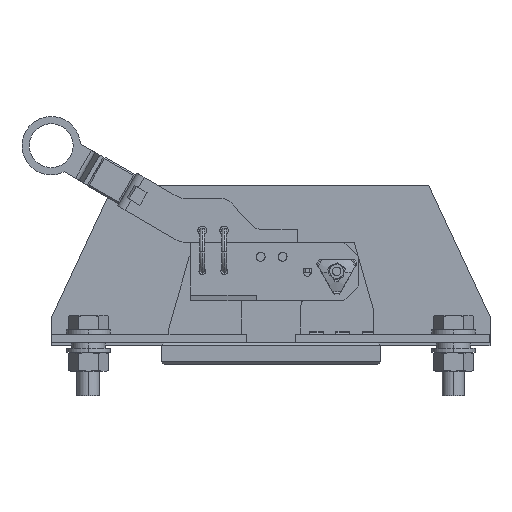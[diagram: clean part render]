
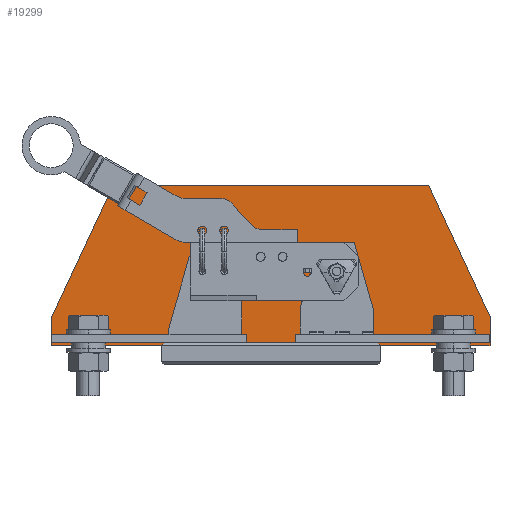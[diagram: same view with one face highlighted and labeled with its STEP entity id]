
A CAD part, left-side view. The second image highlights one B-rep face of the part: STEP entity #19299.
In plain terms, the highlighted planar face has unit normal (-1, 0, 0).
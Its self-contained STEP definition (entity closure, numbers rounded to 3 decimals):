
#667 = ORIENTED_EDGE ( 'NONE', *, *, #46821, .T. ) ;
#883 = CIRCLE ( 'NONE', #24839, 2.2 ) ;
#1152 = CARTESIAN_POINT ( 'NONE',  ( -72.292, 99.787, 115.5 ) ) ;
#2796 = LINE ( 'NONE', #18545, #61896 ) ;
#3991 = DIRECTION ( 'NONE',  ( 0., 1., 0. ) ) ;
#4639 = CARTESIAN_POINT ( 'NONE',  ( -72.292, -158.213, 5.5 ) ) ;
#4951 = DIRECTION ( 'NONE',  ( 0., 0., -1. ) ) ;
#5283 = CARTESIAN_POINT ( 'NONE',  ( -72.292, -37.013, 26.5 ) ) ;
#5564 = CARTESIAN_POINT ( 'NONE',  ( -72.292, -41.413, 24.5 ) ) ;
#5668 = CARTESIAN_POINT ( 'NONE',  ( -72.292, -158.213, 25.5 ) ) ;
#6120 = VERTEX_POINT ( 'NONE', #15989 ) ;
#7255 = DIRECTION ( 'NONE',  ( 0., -1., 0. ) ) ;
#9452 = VECTOR ( 'NONE', #12694, 1000. ) ;
#9814 = EDGE_CURVE ( 'NONE', #61423, #61314, #15229, .T. ) ;
#10171 = VERTEX_POINT ( 'NONE', #5283 ) ;
#11041 = CARTESIAN_POINT ( 'NONE',  ( -72.292, -41.413, 26.5 ) ) ;
#11262 = EDGE_CURVE ( 'NONE', #10171, #53339, #45968, .T. ) ;
#11520 = VECTOR ( 'NONE', #53449, 1000. ) ;
#11706 = ORIENTED_EDGE ( 'NONE', *, *, #79990, .T. ) ;
#11876 = VECTOR ( 'NONE', #18742, 1000. ) ;
#12694 = DIRECTION ( 'NONE',  ( 0., -1., 0. ) ) ;
#15229 = LINE ( 'NONE', #36497, #88988 ) ;
#15475 = EDGE_CURVE ( 'NONE', #6120, #90096, #80034, .T. ) ;
#15645 = DIRECTION ( 'NONE',  ( 0., 0., 1. ) ) ;
#15989 = CARTESIAN_POINT ( 'NONE',  ( -72.292, 141.787, 25.5 ) ) ;
#16258 = VERTEX_POINT ( 'NONE', #43400 ) ;
#18493 = CARTESIAN_POINT ( 'NONE',  ( -72.292, -41.413, 26.5 ) ) ;
#18545 = CARTESIAN_POINT ( 'NONE',  ( -72.292, 20.587, 26.5 ) ) ;
#18742 = DIRECTION ( 'NONE',  ( 0., -0.423, 0.906 ) ) ;
#19299 = ADVANCED_FACE ( 'NONE', ( #35807, #62573, #53625 ), #55918, .T. ) ;
#20911 = CARTESIAN_POINT ( 'NONE',  ( -72.292, 24.987, 26.5 ) ) ;
#21221 = DIRECTION ( 'NONE',  ( 1., 0., 0. ) ) ;
#23307 = EDGE_CURVE ( 'NONE', #90096, #45881, #64101, .T. ) ;
#23668 = CARTESIAN_POINT ( 'NONE',  ( -72.292, -158.213, 5.5 ) ) ;
#24839 = AXIS2_PLACEMENT_3D ( 'NONE', #35546, #21221, #49289 ) ;
#25103 = VECTOR ( 'NONE', #79893, 1000. ) ;
#25823 = ORIENTED_EDGE ( 'NONE', *, *, #92326, .T. ) ;
#26170 = EDGE_CURVE ( 'NONE', #45881, #67321, #90101, .T. ) ;
#26686 = VERTEX_POINT ( 'NONE', #89574 ) ;
#27112 = DIRECTION ( 'NONE',  ( 0., -0.423, -0.906 ) ) ;
#27481 = DIRECTION ( 'NONE',  ( 0., 1., 0. ) ) ;
#27926 = DIRECTION ( 'NONE',  ( 0., 0., 1. ) ) ;
#28380 = VERTEX_POINT ( 'NONE', #53958 ) ;
#29631 = DIRECTION ( 'NONE',  ( 1., 0., 0. ) ) ;
#30408 = EDGE_LOOP ( 'NONE', ( #82933, #45120, #57291, #667 ) ) ;
#33183 = AXIS2_PLACEMENT_3D ( 'NONE', #82048, #74481, #3991 ) ;
#34066 = LINE ( 'NONE', #23668, #25103 ) ;
#34417 = DIRECTION ( 'NONE',  ( 0., 0., 1. ) ) ;
#34990 = DIRECTION ( 'NONE',  ( -1., 0., 0. ) ) ;
#35516 = EDGE_CURVE ( 'NONE', #26686, #6120, #84689, .T. ) ;
#35546 = CARTESIAN_POINT ( 'NONE',  ( -72.292, 22.787, 26.5 ) ) ;
#35807 = FACE_BOUND ( 'NONE', #65641, .T. ) ;
#36497 = CARTESIAN_POINT ( 'NONE',  ( -72.292, 24.987, 26.5 ) ) ;
#41155 = AXIS2_PLACEMENT_3D ( 'NONE', #49960, #34990, #7255 ) ;
#42395 = EDGE_CURVE ( 'NONE', #61314, #91468, #883, .T. ) ;
#42668 = EDGE_CURVE ( 'NONE', #67321, #49198, #48827, .T. ) ;
#43400 = CARTESIAN_POINT ( 'NONE',  ( -72.292, -37.013, 24.5 ) ) ;
#45050 = ORIENTED_EDGE ( 'NONE', *, *, #35516, .F. ) ;
#45120 = ORIENTED_EDGE ( 'NONE', *, *, #42395, .T. ) ;
#45881 = VERTEX_POINT ( 'NONE', #81814 ) ;
#45968 = CIRCLE ( 'NONE', #88547, 2.2 ) ;
#46102 = CIRCLE ( 'NONE', #79797, 2.2 ) ;
#46821 = EDGE_CURVE ( 'NONE', #28380, #61423, #73176, .T. ) ;
#48107 = EDGE_LOOP ( 'NONE', ( #55274, #76910, #59052, #87897, #45050, #67236 ) ) ;
#48384 = CARTESIAN_POINT ( 'NONE',  ( -72.292, -39.213, 24.5 ) ) ;
#48827 = LINE ( 'NONE', #4639, #82400 ) ;
#49132 = CARTESIAN_POINT ( 'NONE',  ( -72.292, 141.787, 5.5 ) ) ;
#49198 = VERTEX_POINT ( 'NONE', #55259 ) ;
#49289 = DIRECTION ( 'NONE',  ( 0., 1., 0. ) ) ;
#49960 = CARTESIAN_POINT ( 'NONE',  ( -72.292, -158.213, 115.5 ) ) ;
#52025 = VECTOR ( 'NONE', #27112, 1000. ) ;
#53339 = VERTEX_POINT ( 'NONE', #18493 ) ;
#53449 = DIRECTION ( 'NONE',  ( 0., 0., -1. ) ) ;
#53625 = FACE_BOUND ( 'NONE', #30408, .T. ) ;
#53958 = CARTESIAN_POINT ( 'NONE',  ( -72.292, 20.587, 24.5 ) ) ;
#55259 = CARTESIAN_POINT ( 'NONE',  ( -72.292, -158.213, 5.5 ) ) ;
#55274 = ORIENTED_EDGE ( 'NONE', *, *, #42668, .F. ) ;
#55280 = EDGE_CURVE ( 'NONE', #49198, #26686, #34066, .T. ) ;
#55918 = PLANE ( 'NONE',  #41155 ) ;
#57240 = LINE ( 'NONE', #11041, #11520 ) ;
#57291 = ORIENTED_EDGE ( 'NONE', *, *, #79978, .T. ) ;
#59052 = ORIENTED_EDGE ( 'NONE', *, *, #23307, .F. ) ;
#61314 = VERTEX_POINT ( 'NONE', #20911 ) ;
#61423 = VERTEX_POINT ( 'NONE', #66522 ) ;
#61896 = VECTOR ( 'NONE', #62479, 1000. ) ;
#62479 = DIRECTION ( 'NONE',  ( 0., 0., -1. ) ) ;
#62573 = FACE_OUTER_BOUND ( 'NONE', #48107, .T. ) ;
#62664 = CARTESIAN_POINT ( 'NONE',  ( -72.292, 141.787, 25.5 ) ) ;
#64101 = LINE ( 'NONE', #69421, #9452 ) ;
#65641 = EDGE_LOOP ( 'NONE', ( #11706, #86792, #25823, #92628 ) ) ;
#66366 = LINE ( 'NONE', #84431, #92189 ) ;
#66522 = CARTESIAN_POINT ( 'NONE',  ( -72.292, 24.987, 24.5 ) ) ;
#67236 = ORIENTED_EDGE ( 'NONE', *, *, #55280, .F. ) ;
#67321 = VERTEX_POINT ( 'NONE', #75602 ) ;
#67820 = VECTOR ( 'NONE', #27926, 1000. ) ;
#68206 = CARTESIAN_POINT ( 'NONE',  ( -72.292, 20.587, 26.5 ) ) ;
#69421 = CARTESIAN_POINT ( 'NONE',  ( -72.292, -116.213, 115.5 ) ) ;
#73176 = CIRCLE ( 'NONE', #33183, 2.2 ) ;
#74481 = DIRECTION ( 'NONE',  ( 1., 0., 0. ) ) ;
#75602 = CARTESIAN_POINT ( 'NONE',  ( -72.292, -158.213, 25.5 ) ) ;
#76910 = ORIENTED_EDGE ( 'NONE', *, *, #26170, .F. ) ;
#77490 = EDGE_CURVE ( 'NONE', #89827, #16258, #46102, .T. ) ;
#77741 = DIRECTION ( 'NONE',  ( 1., 0., 0. ) ) ;
#79797 = AXIS2_PLACEMENT_3D ( 'NONE', #48384, #77741, #27481 ) ;
#79893 = DIRECTION ( 'NONE',  ( 0., 1., 0. ) ) ;
#79978 = EDGE_CURVE ( 'NONE', #91468, #28380, #2796, .T. ) ;
#79990 = EDGE_CURVE ( 'NONE', #16258, #10171, #66366, .T. ) ;
#80034 = LINE ( 'NONE', #62664, #11876 ) ;
#80572 = DIRECTION ( 'NONE',  ( 0., 1., 0. ) ) ;
#81814 = CARTESIAN_POINT ( 'NONE',  ( -72.292, -116.213, 115.5 ) ) ;
#82048 = CARTESIAN_POINT ( 'NONE',  ( -72.292, 22.787, 24.5 ) ) ;
#82400 = VECTOR ( 'NONE', #4951, 1000. ) ;
#82933 = ORIENTED_EDGE ( 'NONE', *, *, #9814, .T. ) ;
#84431 = CARTESIAN_POINT ( 'NONE',  ( -72.292, -37.013, 26.5 ) ) ;
#84689 = LINE ( 'NONE', #49132, #67820 ) ;
#86792 = ORIENTED_EDGE ( 'NONE', *, *, #11262, .T. ) ;
#87486 = CARTESIAN_POINT ( 'NONE',  ( -72.292, -39.213, 26.5 ) ) ;
#87897 = ORIENTED_EDGE ( 'NONE', *, *, #15475, .F. ) ;
#88547 = AXIS2_PLACEMENT_3D ( 'NONE', #87486, #29631, #80572 ) ;
#88988 = VECTOR ( 'NONE', #15645, 1000. ) ;
#89574 = CARTESIAN_POINT ( 'NONE',  ( -72.292, 141.787, 5.5 ) ) ;
#89827 = VERTEX_POINT ( 'NONE', #5564 ) ;
#90096 = VERTEX_POINT ( 'NONE', #1152 ) ;
#90101 = LINE ( 'NONE', #5668, #52025 ) ;
#91468 = VERTEX_POINT ( 'NONE', #68206 ) ;
#92189 = VECTOR ( 'NONE', #34417, 1000. ) ;
#92326 = EDGE_CURVE ( 'NONE', #53339, #89827, #57240, .T. ) ;
#92628 = ORIENTED_EDGE ( 'NONE', *, *, #77490, .T. ) ;
